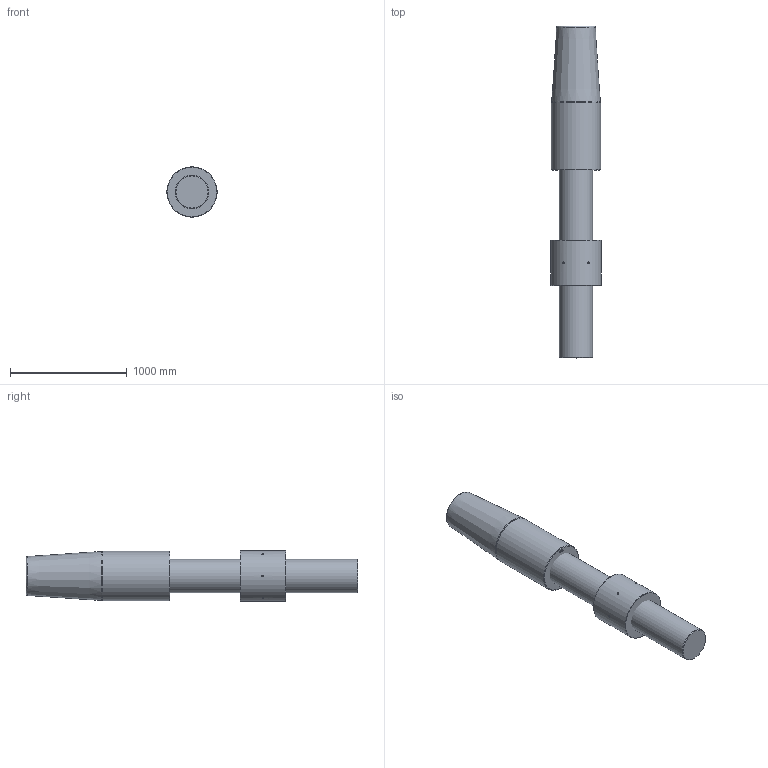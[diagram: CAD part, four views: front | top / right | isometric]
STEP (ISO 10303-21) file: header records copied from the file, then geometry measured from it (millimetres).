
FILE_DESCRIPTION(/* description */ (''),/* implementation_level */ '2;1');
FILE_NAME(/* name */ 'C:\Users\ranca\Desktop\CYM\ARRANGEMENT\CYM144 52 061 0.stp',/* time_stamp */ '2021-04-23T21:56:22+02:00',/* author */ ('ranca'),/* organization */ (''),/* preprocessor_version */ 'ST-DEVELOPER v16.13',/* originating_system */ 'Autodesk Inventor 2018',/* authorisation */ '');
FILE_SCHEMA (('AUTOMOTIVE_DESIGN { 1 0 10303 214 3 1 1 }'));
Length unit declared in the file: millimetre
Products named in the file (4): CYM144-52-061-0; CYM012-52-061-0_ROD; CYC144 52 065 0_CYL SOK_RH; CYM144-41-051-0
Assembly tree (3 placements, depth 2):
  CYM144-52-061-0
    CYM012-52-061-0_ROD
    CYC144 52 065 0_CYL SOK_RH
    CYM144-41-051-0
Bounding box: 430 x 2843 x 430 mm (x, y, z)
Volume: 337480855.9 mm3; surface area: 4489099.6 mm2
Topology: 3 solids, 3 shells, 502 faces, 1345 edges, 894 vertices
Faces by surface type: plane 301, bspline 179, cone 11, cylinder 9, torus 2
Full cylindrical faces by diameter (mm): 15 x6, 285 x1, 420 x1, 430 x1
Entity records: 16594 total; most frequent: CARTESIAN_POINT 5265, ORIENTED_EDGE 2632, DIRECTION 1629, EDGE_CURVE 1316, LINE 925, VECTOR 925, VERTEX_POINT 888, EDGE_LOOP 570
